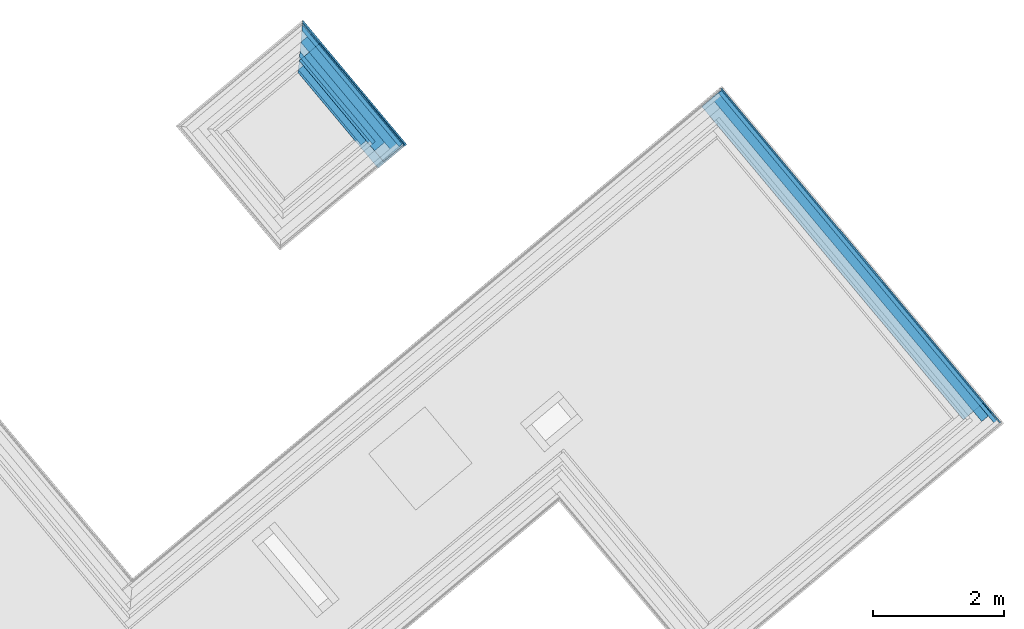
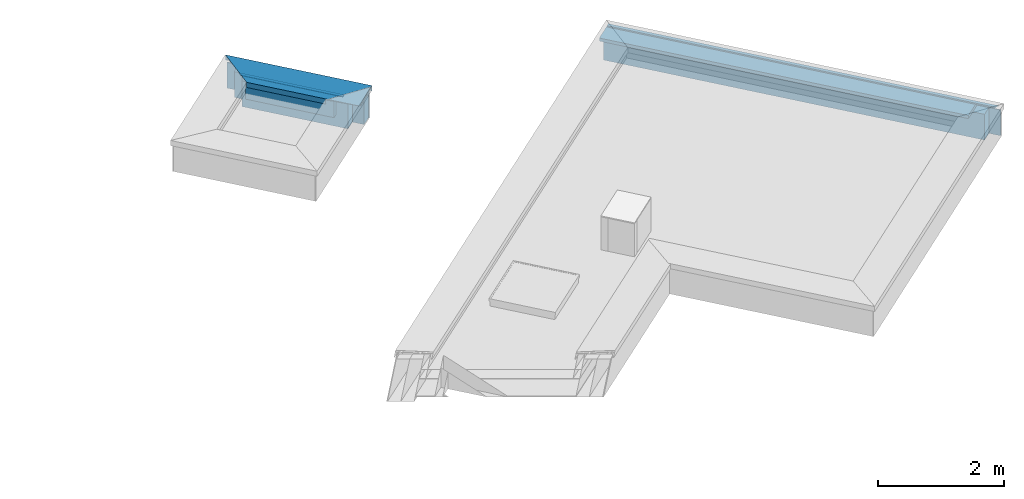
# One storey, part 11 of 13: 13 building element parts, 2 elements without a shape of their own.
"""IFC4 building model written with IfcOpenShell, lengths in metres."""

from ifc_helpers import new_model, entity, si_unit, converted_unit, derived_unit, direction, frame, origin_with_axes, place, context, subcontext, project, spatial, polygons, material, type_object, element, aggregate, save


model = new_model("IFC4")

# Units and contexts
model_context = context("Model", 3, precision=1e-05, world=origin_with_axes(), true_north=direction((0.0, 1.0)))
body_context = subcontext(model_context, "Body", "Model", "MODEL_VIEW")
ifc_project = project(units=[si_unit("LENGTHUNIT", "METRE"), si_unit("AREAUNIT", "SQUARE_METRE"), si_unit("VOLUMEUNIT", "CUBIC_METRE"), converted_unit("PLANEANGLEUNIT", "DEGREE", entity("IfcPlaneAngleMeasure", 0.0174532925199), si_unit("PLANEANGLEUNIT", "RADIAN"), dimensions=[0, 0, 0, 0, 0, 0, 0]), converted_unit("TIMEUNIT", "Year", entity("IfcTimeMeasure", 31556926.0), si_unit("TIMEUNIT", "SECOND"), dimensions=[0, 0, 1, 0, 0, 0, 0]), si_unit("MASSUNIT", "GRAM", prefix="KILO"), si_unit("THERMODYNAMICTEMPERATUREUNIT", "DEGREE_CELSIUS"), si_unit("LUMINOUSINTENSITYUNIT", "LUMEN"), si_unit("ENERGYUNIT", "JOULE", prefix="MEGA"), derived_unit("THERMALCONDUCTANCEUNIT", [(si_unit("POWERUNIT", "WATT"), 1), (si_unit("LENGTHUNIT", "METRE"), -1), (si_unit("THERMODYNAMICTEMPERATUREUNIT", "KELVIN"), -1)]), derived_unit("SPECIFICHEATCAPACITYUNIT", [(si_unit("ENERGYUNIT", "JOULE"), 1), (si_unit("MASSUNIT", "GRAM", prefix="KILO"), -1), (si_unit("THERMODYNAMICTEMPERATUREUNIT", "KELVIN"), -1)]), derived_unit("MASSDENSITYUNIT", [(si_unit("MASSUNIT", "GRAM", prefix="KILO"), 1), (si_unit("VOLUMEUNIT", "CUBIC_METRE"), -1)])], contexts=[model_context])

# Site, building, storey
site_placement = place(None, frame((-0.00153261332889, -0.00661245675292, 0.0), z_axis=(0.0, 0.0, 1.0), x_axis=(1.0, 0.0, 0.0)))
site = spatial("IfcSite", under=ifc_project, at=site_placement, Name="Gelände", CompositionType="ELEMENT")
building_placement = place(site_placement, origin_with_axes())
building = spatial("IfcBuilding", under=site, at=building_placement, Name="Gebäude", CompositionType="ELEMENT")
storey_placement = place(building_placement, frame((0.0, 0.0, 11.84), z_axis=(0.0, 0.0, 1.0), x_axis=(1.0, 0.0, 0.0)))
storey = spatial("IfcBuildingStorey", under=building, at=storey_placement, Name="DA", CompositionType="ELEMENT", Elevation=11.84)

# Wall, building element parts
wall_type_1 = type_object("IfcWallType", Name="Bauteil - Attika 574 x 610", PredefinedType="NOTDEFINED")
wall_1_placement = place(storey_placement, frame((1.62788776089, 27.3539711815, 0.96), z_axis=(0.0, 0.0, 1.0), x_axis=(0.641209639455, -0.767365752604, 0.0)))
wall_1 = element("IfcWall", 1, at=wall_1_placement, inside=storey, type_object=wall_type_1, Name="Wand-002", PredefinedType="NOTDEFINED")
ifc_material_1 = material(Name="Zementputz")
building_element_part_1_placement = place(wall_1_placement, origin_with_axes())
building_element_part_1 = element("IfcBuildingElementPart", 2, at=building_element_part_1_placement, material=ifc_material_1, Name="Zementputz", PredefinedType="NOTDEFINED", context=body_context, shape_type="Tessellation", body=[
    polygons([(-0.199999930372, 0.214999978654, 0.498822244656), (-0.199999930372, 0.214999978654, 0.5), (2.21614370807, 0.214999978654, 0.50000001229), (2.21614370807, 0.214999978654, 0.0), (-0.199999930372, 0.214999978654, 0.0), (-0.199999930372, 0.214999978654, 0.235000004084), (-0.199999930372, 0.214999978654, 0.488695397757), (-0.199999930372, 0.214999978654, 0.491006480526), (-0.199999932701, 0.199999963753, 0.5), (-0.199999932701, 0.199999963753, 0.498822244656), (2.21614373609, 0.199999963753, 0.50000001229), (2.21614373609, 0.199999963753, 0.0), (-0.199999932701, 0.199999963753, 0.0), (-0.199999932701, 0.199999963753, 0.235000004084), (-0.199999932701, 0.199999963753, 0.488695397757), (-0.199999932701, 0.199999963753, 0.491006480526)], [[[1, 2, 3, 4, 5, 6, 7, 8]], [[9, 2, 1, 10]], [[2, 9, 11, 3]], [[12, 4, 3, 11]], [[13, 5, 4, 12]], [[14, 6, 5, 13]], [[15, 7, 6, 14]], [[16, 8, 7, 15]], [[10, 1, 8, 16]], [[9, 10, 16, 15, 14, 13, 12, 11]]], closed=True),
])
ifc_material_2 = material(Name="Vollholz")
building_element_part_2_placement = place(wall_1_placement, origin_with_axes())
building_element_part_2 = element("IfcBuildingElementPart", 3, at=building_element_part_2_placement, material=ifc_material_2, Name="Vollholz", PredefinedType="NOTDEFINED", context=body_context, shape_type="Tessellation", body=[
    polygons([(2.1911831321, 0.130124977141, 0.575979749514), (2.19119439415, 0.130124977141, 0.573880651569), (2.19119428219, 0.190050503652, 0.573880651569), (2.19118302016, 0.190039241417, 0.575979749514), (-0.130124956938, 0.130124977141, 0.567947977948), (-0.130124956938, 0.130124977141, 0.560000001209), (2.19126886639, 0.130124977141, 0.560000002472), (2.19122622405, 0.130124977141, 0.567947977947), (2.1911400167, 0.130124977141, 0.584015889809), (-0.130124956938, 0.130124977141, 0.584015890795), (-0.130124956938, 0.130124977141, 0.575979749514), (-0.130124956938, 0.130124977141, 0.573880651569), (2.19122611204, 0.19008233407, 0.567947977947), (-0.130124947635, 0.190039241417, 0.575979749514), (-0.130124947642, 0.189996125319, 0.584015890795), (-0.189984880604, 0.189984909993, 0.586106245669), (2.19112868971, 0.189984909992, 0.586106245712), (2.19113990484, 0.189996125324, 0.584015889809), (2.1912687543, 0.190124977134, 0.560000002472), (-0.130124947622, 0.190124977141, 0.560000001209), (-0.130124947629, 0.19008233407, 0.567947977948), (-0.130124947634, 0.190050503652, 0.573880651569)], [[[1, 2, 3, 4]], [[5, 6, 7, 8, 2, 1, 9, 10, 11, 12]], [[2, 8, 13, 3]], [[14, 15, 16, 17, 18, 4, 3, 13, 19, 20, 21, 22]], [[1, 4, 18, 9]], [[6, 5, 21, 20]], [[7, 6, 20, 19]], [[8, 7, 19, 13]], [[16, 10, 9, 17]], [[11, 10, 15, 14]], [[12, 11, 14, 22]], [[5, 12, 22, 21]], [[15, 10, 16]], [[17, 9, 18]]], closed=True),
])
ifc_material_3 = material(Name="EPS 1")
building_element_part_3_placement = place(wall_1_placement, origin_with_axes())
building_element_part_3 = element("IfcBuildingElementPart", 4, at=building_element_part_3_placement, material=ifc_material_3, Name="EPS 1", PredefinedType="NOTDEFINED", context=body_context, shape_type="Tessellation", body=[
    polygons([(2.20114410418, -2.16659046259e-09, 0.5), (2.20114373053, 0.19999996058, 0.5), (3.3218292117e-08, 0.19999996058, 0.5), (2.16658690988e-09, -2.16658690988e-09, 0.5), (2.20114373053, 0.19999996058, 0.498822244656), (2.20114410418, -2.16659046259e-09, 0.498822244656), (2.20114373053, 0.19999996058, 0.491006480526), (2.20114373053, 0.19999996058, 0.488695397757), (2.20114373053, 0.19999996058, 0.235000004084), (2.20114373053, 0.19999996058, 0.0), (3.3218292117e-08, 0.19999996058, 0.0), (3.32182885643e-08, 0.19999996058, 0.235000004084), (3.32182885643e-08, 0.19999996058, 0.488695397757), (3.32182885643e-08, 0.19999996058, 0.491006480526), (3.32182885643e-08, 0.19999996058, 0.498822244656), (2.16658690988e-09, -2.16659046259e-09, 0.498822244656), (2.16658690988e-09, -2.16659046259e-09, 0.491006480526), (2.16658690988e-09, -2.16659046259e-09, 0.488695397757), (2.16658690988e-09, -2.16659046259e-09, 0.235000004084), (2.16658690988e-09, -2.16658690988e-09, 0.0), (2.20114410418, -2.16659046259e-09, 0.0), (2.20114410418, -2.16659046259e-09, 0.235000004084), (2.20114410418, -2.16659046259e-09, 0.488695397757), (2.20114410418, -2.16659046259e-09, 0.491006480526)], [[[1, 2, 3, 4]], [[5, 2, 1, 6]], [[2, 5, 7, 8, 9, 10, 11, 12, 13, 14, 15, 3]], [[4, 3, 15, 16]], [[6, 1, 4, 16, 17, 18, 19, 20, 21, 22, 23, 24]], [[5, 6, 24, 7]], [[7, 24, 23, 8]], [[8, 23, 22, 9]], [[9, 22, 21, 10]], [[10, 21, 20, 11]], [[19, 12, 11, 20]], [[18, 13, 12, 19]], [[17, 14, 13, 18]], [[16, 15, 14, 17]]], closed=True),
])
ifc_material_4 = material(Name="Brettschichtholz")
building_element_part_4_placement = place(wall_1_placement, origin_with_axes())
building_element_part_4 = element("IfcBuildingElementPart", 5, at=building_element_part_4_placement, material=ifc_material_4, Name="Brettschichtholz", PredefinedType="NOTDEFINED", context=body_context, shape_type="Tessellation", body=[
    polygons([(2.21614375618, 0.190124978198, 0.560000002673), (2.21614370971, 0.214999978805, 0.560000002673), (0.200000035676, 0.214999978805, 0.560000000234), (0.200000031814, 0.190124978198, 0.560000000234), (2.21614370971, 0.214999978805, 0.519224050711), (2.21614386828, 0.130124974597, 0.560000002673), (2.21614429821, -0.0999999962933, 0.560000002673), (2.2161444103, -0.159999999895, 0.560000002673), (2.21614448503, -0.200000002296, 0.560000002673), (2.21614448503, -0.200000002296, 0.519224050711), (2.21614370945, 0.214999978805, 0.51136132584), (2.21614370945, 0.214999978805, 0.509050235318), (2.21614370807, 0.214999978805, 0.50000001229), (0.200000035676, 0.214999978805, 0.499999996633), (0.200000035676, 0.214999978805, 0.509050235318), (0.200000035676, 0.214999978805, 0.51136132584), (0.200000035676, 0.214999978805, 0.519224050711), (0.199999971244, -0.200000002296, 0.519224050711), (0.199999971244, -0.200000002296, 0.560000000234), (0.199999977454, -0.159999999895, 0.560000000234), (0.19999998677, -0.0999999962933, 0.560000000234), (0.200000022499, 0.130124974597, 0.560000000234), (0.199999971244, -0.200000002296, 0.51136132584), (0.199999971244, -0.200000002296, 0.509050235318), (0.199999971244, -0.200000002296, 0.499999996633), (2.2161444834, -0.200000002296, 0.50000001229), (2.21614448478, -0.200000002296, 0.509050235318), (2.21614448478, -0.200000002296, 0.51136132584)], [[[1, 2, 3, 4]], [[5, 2, 1, 6, 7, 8, 9, 10]], [[2, 5, 11, 12, 13, 14, 15, 16, 17, 3]], [[4, 3, 17, 18, 19, 20, 21, 22]], [[6, 1, 4, 22]], [[7, 6, 22, 21]], [[8, 7, 21, 20]], [[9, 8, 20, 19]], [[10, 9, 19, 18, 23, 24, 25, 26, 27, 28]], [[5, 10, 28, 11]], [[11, 28, 27, 12]], [[12, 27, 26, 13]], [[25, 14, 13, 26]], [[24, 15, 14, 25]], [[23, 16, 15, 24]], [[18, 17, 16, 23]]], closed=True),
])
ifc_material_5 = material(Name="Stahlbeton Wand Garage")
building_element_part_5_placement = place(wall_1_placement, origin_with_axes())
building_element_part_5 = element("IfcBuildingElementPart", 6, at=building_element_part_5_placement, material=ifc_material_5, Name="Stahlbeton Wand Garage", PredefinedType="NOTDEFINED", context=body_context, shape_type="Tessellation", body=[
    polygons([(2.00114451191, -0.2, 0.5), (2.00114413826, 0.0, 0.5), (0.2, 0.0, 0.5), (0.199999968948, -0.2, 0.5), (2.00114413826, 0.0, 0.498822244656), (2.00114451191, -0.200000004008, 0.498822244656), (2.00114413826, 0.0, 0.491006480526), (2.00114413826, 0.0, 0.488695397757), (2.00114413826, 0.0, 0.235000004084), (2.00114413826, 0.0, 0.0), (0.2, 0.0, 0.0), (0.200000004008, 0.0, 0.235000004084), (0.200000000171, 0.0, 0.488695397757), (0.200000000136, 0.0, 0.491006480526), (0.200000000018, 0.0, 0.498822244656), (0.199999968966, -0.200000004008, 0.498822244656), (0.199999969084, -0.200000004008, 0.491006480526), (0.199999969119, -0.200000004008, 0.488695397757), (0.199999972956, -0.200000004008, 0.235000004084), (2.00114451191, -0.200000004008, 0.235000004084), (2.00114451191, -0.200000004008, 0.488695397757), (2.00114451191, -0.200000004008, 0.491006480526), (2.00114451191, -0.2, 0.0), (0.199999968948, -0.2, 0.0)], [[[1, 2, 3, 4]], [[5, 2, 1, 6]], [[2, 5, 7, 8, 9, 10, 11, 12, 13, 14, 15, 3]], [[4, 3, 15, 16]], [[6, 1, 4, 16, 17, 18, 19, 20, 21, 22]], [[5, 6, 22, 7]], [[7, 22, 21, 8]], [[8, 21, 20, 9]], [[9, 20, 23, 10]], [[10, 23, 24, 11]], [[19, 12, 11, 24]], [[18, 13, 12, 19]], [[17, 14, 13, 18]], [[16, 15, 14, 17]], [[23, 20, 19, 24]]], closed=True),
])
building_element_part_6_placement = place(wall_1_placement, origin_with_axes())
building_element_part_6 = element("IfcBuildingElementPart", 7, at=building_element_part_6_placement, material=ifc_material_2, Name="Vollholz", PredefinedType="NOTDEFINED", context=body_context, shape_type="Tessellation", body=[
    polygons([(1.90114443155, -0.160110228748, 0.573880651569), (1.90114431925, -0.1, 0.575979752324), (0.0999999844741, -0.1, 0.575979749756), (0.160110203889, -0.160110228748, 0.573880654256), (1.90114431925, -0.1, 0.573880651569), (1.90114431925, -0.1, 0.567947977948), (1.90114431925, -0.1, 0.560000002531), (0.159999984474, -0.1, 0.560000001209), (0.160063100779, -0.1, 0.567947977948), (0.160110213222, -0.1, 0.573880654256), (1.90114443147, -0.160063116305, 0.567947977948), (0.160063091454, -0.160063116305, 0.567947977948), (0.159999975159, -0.16, 0.560000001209), (1.90114443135, -0.16, 0.560000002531)], [[[1, 2, 3, 4]], [[5, 2, 1]], [[2, 5, 6, 7, 8, 9, 10, 3]], [[3, 10, 4]], [[11, 1, 4, 12, 13, 14]], [[5, 1, 11, 6]], [[6, 11, 14, 7]], [[7, 14, 13, 8]], [[12, 9, 8, 13]], [[4, 10, 9, 12]]], closed=True),
])
building_element_part_7_placement = place(wall_1_placement, origin_with_axes())
building_element_part_7 = element("IfcBuildingElementPart", 8, at=building_element_part_7_placement, material=ifc_material_3, Name="EPS 1", PredefinedType="NOTDEFINED", context=body_context, shape_type="Tessellation", body=[
    polygons([(1.80114469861, -0.30000000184, 0.560000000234), (1.80114451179, -0.200000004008, 0.560000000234), (0.299999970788, -0.200000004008, 0.560000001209), (0.299999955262, -0.30000000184, 0.560000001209), (1.80114451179, -0.200000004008, 0.519224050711), (1.80114469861, -0.30000000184, 0.519224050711), (1.80114451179, -0.200000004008, 0.51136132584), (1.80114451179, -0.200000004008, 0.509050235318), (1.80114451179, -0.200000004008, 0.499999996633), (1.80114451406, -0.200000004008, 0.498822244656), (1.80114451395, -0.200000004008, 0.491006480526), (1.80114451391, -0.200000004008, 0.488695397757), (1.80114451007, -0.200000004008, 0.235000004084), (0.299999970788, -0.200000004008, 0.235000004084), (0.299999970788, -0.200000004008, 0.488695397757), (0.299999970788, -0.200000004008, 0.491006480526), (0.299999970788, -0.200000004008, 0.498822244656), (0.299999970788, -0.200000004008, 0.499999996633), (0.299999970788, -0.200000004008, 0.509050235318), (0.299999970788, -0.200000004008, 0.51136132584), (0.299999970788, -0.200000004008, 0.519224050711), (0.299999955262, -0.30000000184, 0.519224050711), (0.299999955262, -0.30000000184, 0.51136132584), (0.299999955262, -0.30000000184, 0.509050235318), (0.299999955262, -0.30000000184, 0.499999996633), (0.299999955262, -0.30000000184, 0.498822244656), (0.299999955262, -0.30000000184, 0.491006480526), (0.299999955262, -0.30000000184, 0.488695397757), (0.299999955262, -0.30000000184, 0.235000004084), (1.8011446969, -0.30000000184, 0.235000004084), (1.80114470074, -0.30000000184, 0.488695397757), (1.80114470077, -0.30000000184, 0.491006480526), (1.80114470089, -0.30000000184, 0.498822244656), (1.80114469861, -0.30000000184, 0.499999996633), (1.80114469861, -0.30000000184, 0.509050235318), (1.80114469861, -0.30000000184, 0.51136132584)], [[[1, 2, 3, 4]], [[5, 2, 1, 6]], [[2, 5, 7, 8, 9, 10, 11, 12, 13, 14, 15, 16, 17, 18, 19, 20, 21, 3]], [[4, 3, 21, 22]], [[6, 1, 4, 22, 23, 24, 25, 26, 27, 28, 29, 30, 31, 32, 33, 34, 35, 36]], [[5, 6, 36, 7]], [[7, 36, 35, 8]], [[8, 35, 34, 9]], [[9, 34, 33, 10]], [[10, 33, 32, 11]], [[11, 32, 31, 12]], [[12, 31, 30, 13]], [[13, 30, 29, 14]], [[28, 15, 14, 29]], [[27, 16, 15, 28]], [[26, 17, 16, 27]], [[25, 18, 17, 26]], [[24, 19, 18, 25]], [[23, 20, 19, 24]], [[22, 21, 20, 23]]], closed=True),
])
ifc_material_6 = material(Name="Holzwerkstoff")
building_element_part_8_placement = place(wall_1_placement, origin_with_axes())
building_element_part_8 = element("IfcBuildingElementPart", 9, at=building_element_part_8_placement, material=ifc_material_6, Name="Holzwerkstoff", PredefinedType="NOTDEFINED", context=body_context, shape_type="Tessellation", body=[
    polygons([(0.330698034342, -0.330698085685, 0.587938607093), (-0.239276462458, 0.239276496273, 0.608570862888), (0.330698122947, 0.2399969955, 0.587938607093), (2.24114178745, -0.33069804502, 0.587937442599), (2.24042018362, 0.239276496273, 0.608570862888), (2.24114072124, 0.239997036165, 0.587937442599), (2.24114367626, 0.239999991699, 0.587852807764), (0.330695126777, 0.239999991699, 0.587852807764), (0.330634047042, -0.330634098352, 0.586106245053), (0.330634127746, 0.189984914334, 0.586106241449), (0.330561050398, -0.330561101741, 0.584015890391), (0.330280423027, -0.330280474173, 0.575979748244), (0.330207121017, -0.330207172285, 0.573880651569), (0.329999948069, -0.329999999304, 0.567947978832), (1.67114478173, -0.329999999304, 0.567947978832), (1.84103452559, -0.330207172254, 0.57388065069), (1.90114474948, -0.330280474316, 0.575979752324), (2.13126972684, -0.330561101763, 0.584015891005), (2.19112966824, -0.330634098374, 0.586106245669), (2.24114474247, -0.330695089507, 0.587852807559), (2.19112857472, 0.189984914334, 0.586106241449), (0.330561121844, 0.130124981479, 0.584015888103), (0.330280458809, -0.100000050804, 0.575979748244), (0.330207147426, -0.160110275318, 0.573880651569), (1.84103420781, -0.160110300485, 0.57388065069), (1.90114431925, -0.100000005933, 0.575979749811), (2.13126886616, 0.130124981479, 0.584015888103)], [[[1, 2, 3]], [[2, 1, 4, 5]], [[2, 5, 6, 7, 8, 3]], [[9, 1, 3, 8, 10]], [[11, 12, 13, 14, 15, 16, 17, 18, 19, 20, 4, 1, 9]], [[4, 6, 5]], [[4, 20, 7, 6]], [[10, 8, 7, 21]], [[11, 9, 10, 22]], [[12, 11, 22, 23]], [[24, 13, 12, 23]], [[24, 14, 13]], [[14, 24, 25, 15]], [[15, 25, 16]], [[17, 16, 25, 26]], [[17, 26, 27, 18]], [[19, 18, 27, 21]], [[20, 19, 21, 7]], [[22, 10, 21, 27]], [[23, 22, 27, 26]], [[24, 23, 26, 25]]], closed=True),
])
ifc_material_7 = material(Name="Stahl")
building_element_part_9_placement = place(wall_1_placement, origin_with_axes())
building_element_part_9 = element("IfcBuildingElementPart", 10, at=building_element_part_9_placement, material=ifc_material_7, Name="Stahl", PredefinedType="NOTDEFINED", context=body_context, shape_type="Tessellation", body=[
    polygons([(0.332051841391, -0.332051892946, 0.491006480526), (0.332051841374, -0.332051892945, 0.489652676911), (1.67100741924, -0.332051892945, 0.489652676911), (1.67236122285, -0.332051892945, 0.491006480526), (1.67044667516, -0.332051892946, 0.491006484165), (1.67044667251, -0.332051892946, 0.498822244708), (1.67044667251, -0.332051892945, 0.499999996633), (1.67044667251, -0.332051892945, 0.509050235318), (1.67044667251, -0.332051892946, 0.51136132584), (1.67044667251, -0.332051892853, 0.519224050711), (1.67044667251, -0.332051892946, 0.560000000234), (1.67044667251, -0.332051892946, 0.56794797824), (1.67044667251, -0.332051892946, 0.57388065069), (1.67044667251, -0.332051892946, 0.575979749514), (1.67044667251, -0.332051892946, 0.584015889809), (1.67044667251, -0.332051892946, 0.586106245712), (1.6704466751, -0.332051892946, 0.587938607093), (0.332051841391, -0.332051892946, 0.589243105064), (0.332051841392, -0.332051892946, 0.587938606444), (0.332051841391, -0.332051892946, 0.586106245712), (0.332051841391, -0.332051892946, 0.584015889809), (0.332051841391, -0.332051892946, 0.575979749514), (0.332051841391, -0.332051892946, 0.573880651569), (0.332051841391, -0.332051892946, 0.567947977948), (0.332051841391, -0.332051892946, 0.560000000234), (0.332051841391, -0.332051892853, 0.519224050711), (0.332051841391, -0.332051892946, 0.51136132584), (0.332051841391, -0.332051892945, 0.509050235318), (0.332051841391, -0.332051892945, 0.499999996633), (0.332051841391, -0.332051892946, 0.498822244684), (0.332051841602, -0.330698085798, 0.491006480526), (0.332051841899, -0.32878353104, 0.491006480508), (0.332051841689, -0.33013733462, 0.489652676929), (0.331094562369, -0.331094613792, 0.488695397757), (1.67005013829, -0.331094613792, 0.488695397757), (1.67236121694, -0.328783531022, 0.491006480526), (1.67236122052, -0.330698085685, 0.491006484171), (1.67044667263, -0.330698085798, 0.491006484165), (1.67044666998, -0.330698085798, 0.498822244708), (1.67044666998, -0.330698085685, 0.499999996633), (1.67044666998, -0.330698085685, 0.509050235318), (1.67044666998, -0.330698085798, 0.51136132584), (1.67044666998, -0.330698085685, 0.519224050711), (1.67044666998, -0.330698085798, 0.560000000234), (1.67044666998, -0.330698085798, 0.56794797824), (1.67044666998, -0.330698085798, 0.57388065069), (1.67044666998, -0.330698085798, 0.575979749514), (1.67044666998, -0.330698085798, 0.584015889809), (1.67044666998, -0.330698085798, 0.586106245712), (1.67044671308, -0.330698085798, 0.587937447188), (1.67047086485, -0.332051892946, 0.587938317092), (0.332051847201, -0.294630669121, 0.589243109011), (0.332051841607, -0.330666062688, 0.587938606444), (0.332051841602, -0.330698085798, 0.587937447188), (0.332051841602, -0.330698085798, 0.586106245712), (0.332051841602, -0.330698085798, 0.584015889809), (0.332051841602, -0.330698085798, 0.575979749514), (0.332051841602, -0.330698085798, 0.573880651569), (0.332051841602, -0.330698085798, 0.567947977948), (0.332051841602, -0.330698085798, 0.560000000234), (0.332051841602, -0.330698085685, 0.519224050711), (0.332051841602, -0.330698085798, 0.51136132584), (0.332051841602, -0.330698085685, 0.509050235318), (0.332051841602, -0.330698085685, 0.499999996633), (0.332051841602, -0.330698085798, 0.498822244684), (0.330698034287, -0.330698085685, 0.491006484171), (0.330698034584, -0.328783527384, 0.491006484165), (0.323792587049, -0.321878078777, 0.497911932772), (1.67926665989, -0.321878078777, 0.497911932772), (1.67926666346, -0.323792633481, 0.497911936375), (1.67826241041, -0.32288233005, 0.498822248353), (0.322882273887, -0.32288233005, 0.498822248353), (2.2404201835, 0.239276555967, 0.608570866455), (2.24042025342, 0.201849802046, 0.608570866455), (1.70651414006, -0.332051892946, 0.589243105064), (-0.201849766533, 0.201849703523, 0.608570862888), (-0.201849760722, 0.239276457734, 0.608570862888), (2.24129656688, 0.202730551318, 0.608602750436), (2.24129649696, 0.240152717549, 0.608602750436), (2.24264401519, 0.202730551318, 0.608602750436), (2.24264394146, 0.241500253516, 0.610006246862), (-0.24150021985, 0.241500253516, 0.610006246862), (-0.202730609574, 0.202730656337, 0.608602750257), (-0.202730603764, 0.240152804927, 0.608602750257), (2.24264394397, 0.240152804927, 0.608602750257), (2.24264394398, 0.240146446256, 0.51136132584), (2.24264394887, 0.238231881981, 0.511361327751), (2.24264394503, 0.239585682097, 0.510007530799), (2.24264394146, 0.241500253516, 0.510007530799), (-0.240152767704, 0.241500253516, 0.608602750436), (-0.202730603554, 0.241500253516, 0.608602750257), (-0.239585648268, 0.241500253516, 0.510007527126), (-0.2382318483, 0.241500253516, 0.511361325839), (-0.240146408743, 0.241500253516, 0.51136132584), (-0.240146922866, 0.241500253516, 0.519224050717), (-0.240149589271, 0.241500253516, 0.560000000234), (-0.240150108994, 0.241500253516, 0.567947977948), (-0.240150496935, 0.241500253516, 0.573880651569), (-0.240150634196, 0.241500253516, 0.575979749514), (-0.240151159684, 0.241500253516, 0.584015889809), (-0.240151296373, 0.241500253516, 0.586106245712), (-0.240151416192, 0.241500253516, 0.587938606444), (-0.240152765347, 0.241500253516, 0.608570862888), (-0.240152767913, 0.240152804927, 0.608602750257), (-0.240152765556, 0.240152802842, 0.608570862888), (-0.240151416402, 0.240151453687, 0.587938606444), (-0.240151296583, 0.240151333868, 0.586106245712), (-0.240151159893, 0.240151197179, 0.584015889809), (-0.240150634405, 0.240150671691, 0.575979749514), (-0.240150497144, 0.24015053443, 0.573880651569), (-0.240150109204, 0.240150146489, 0.567947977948), (-0.240149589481, 0.240149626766, 0.560000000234), (-0.240146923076, 0.240146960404, 0.519224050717), (-0.240146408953, 0.240146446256, 0.51136132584), (-0.23823184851, 0.240146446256, 0.511361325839), (2.24129013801, 0.240146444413, 0.511361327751), (2.24129014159, 0.238231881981, 0.511361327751), (-0.231373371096, 0.231373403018, 0.518219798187), (-0.238231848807, 0.238231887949, 0.51136132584), (-0.240542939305, 0.240542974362, 0.509050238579), (2.24168666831, 0.240542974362, 0.509050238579), (2.23443167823, 0.231373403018, 0.518219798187), (-0.231373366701, 0.233287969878, 0.518219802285), (-0.232283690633, 0.232283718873, 0.51922405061), (2.23342742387, 0.232283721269, 0.519224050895)], [[[1, 2, 3, 4, 5, 6, 7, 8, 9, 10, 11, 12, 13, 14, 15, 16, 17, 18, 19, 20, 21, 22, 23, 24, 25, 26, 27, 28, 29, 30]], [[2, 1, 31, 32, 33]], [[2, 34, 35, 3]], [[3, 35, 36, 37, 4]], [[38, 5, 4, 37]], [[6, 5, 38, 39]], [[7, 6, 39, 40]], [[7, 40, 41, 8]], [[9, 8, 41, 42]], [[10, 9, 42, 43]], [[11, 10, 43, 44]], [[12, 11, 44, 45]], [[13, 12, 45, 46]], [[13, 46, 47, 14]], [[15, 14, 47, 48]], [[16, 15, 48, 49]], [[17, 16, 49, 50]], [[18, 17, 51]], [[19, 18, 52, 53, 54]], [[20, 19, 54, 55]], [[21, 20, 55, 56]], [[22, 21, 56, 57]], [[58, 23, 22, 57]], [[24, 23, 58, 59]], [[25, 24, 59, 60]], [[26, 25, 60, 61]], [[27, 26, 61, 62]], [[28, 27, 62, 63]], [[29, 28, 63, 64]], [[30, 29, 64, 65]], [[1, 30, 65, 31]], [[31, 66, 67, 32]], [[34, 33, 32, 67, 68, 69, 36, 35]], [[34, 2, 33]], [[37, 36, 69, 70]], [[66, 31, 38, 37, 70, 71, 72]], [[31, 65, 64, 63, 62, 61, 60, 59, 58, 57, 56, 55, 54, 50, 49, 48, 47, 46, 45, 44, 43, 42, 41, 40, 39, 38]], [[51, 17, 50, 73, 74, 75]], [[75, 18, 51]], [[52, 18, 76, 77]], [[54, 53, 52, 77, 73, 50]], [[67, 66, 72, 68]], [[68, 72, 71, 69]], [[71, 70, 69]], [[78, 74, 73, 79]], [[76, 18, 75, 74, 78, 80, 81, 82, 83]], [[76, 83, 84, 77]], [[77, 84, 79, 73]], [[80, 78, 79, 85]], [[86, 87, 88, 89, 81, 80, 85]], [[90, 91, 82, 81, 89, 92, 93, 94, 95, 96, 97, 98, 99, 100, 101, 102, 103]], [[83, 82, 91, 84]], [[84, 104, 105, 106, 107, 108, 109, 110, 111, 112, 113, 114, 115, 116, 86, 85, 79]], [[117, 87, 86, 116]], [[118, 119, 120, 121, 88, 87, 117, 122]], [[88, 121, 89]], [[84, 91, 90, 104]], [[120, 92, 89, 121]], [[120, 119, 115, 93, 92]], [[114, 94, 93, 115]], [[94, 114, 113, 95]], [[113, 112, 96, 95]], [[112, 111, 97, 96]], [[111, 110, 98, 97]], [[110, 109, 99, 98]], [[109, 108, 100, 99]], [[108, 107, 101, 100]], [[107, 106, 102, 101]], [[106, 105, 103, 102]], [[105, 104, 90, 103]], [[123, 124, 125, 116, 115]], [[122, 117, 116, 125]], [[118, 123, 115, 119]], [[124, 118, 122, 125]], [[118, 124, 123]]], closed=True),
])
aggregate(wall_1, [building_element_part_1, building_element_part_2, building_element_part_3, building_element_part_4, building_element_part_5, building_element_part_6, building_element_part_7, building_element_part_8, building_element_part_9])

wall_type_2 = type_object("IfcWallType", Name="Individuelles Profil 574 x 610", PredefinedType="NOTDEFINED")
wall_2_placement = place(storey_placement, frame((8.04940660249, 26.3441297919, 0.0), z_axis=(0.0, 0.0, 1.0), x_axis=(0.641209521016, -0.767365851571, 0.0)))
wall_2 = element("IfcWall", 11, at=wall_2_placement, inside=storey, type_object=wall_type_2, Name="Wand-004", PredefinedType="NOTDEFINED")
building_element_part_10_placement = place(wall_2_placement, origin_with_axes())
building_element_part_10 = element("IfcBuildingElementPart", 12, at=building_element_part_10_placement, material=ifc_material_1, Name="Zementputz", PredefinedType="NOTDEFINED", context=body_context, shape_type="Tessellation", body=[
    polygons([(6.45742309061, 0.199999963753, 0.5), (6.45741332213, 0.214999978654, 0.5), (-0.214999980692, 0.214999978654, 0.500000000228), (-0.214999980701, 0.199999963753, 0.500000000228), (6.45741332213, 0.214999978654, 0.498822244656), (6.45742309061, 0.199999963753, 0.498822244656), (6.45741332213, 0.214999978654, 0.491006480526), (6.45741332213, 0.214999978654, 0.488695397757), (6.45741332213, 0.214999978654, 0.235000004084), (6.45741332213, 0.214999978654, 0.0), (-0.214999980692, 0.214999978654, 0.0), (-0.214999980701, 0.199999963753, 0.0), (6.45742309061, 0.199999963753, 0.0), (6.45742309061, 0.199999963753, 0.235000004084), (6.45742309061, 0.199999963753, 0.488695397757), (6.45742309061, 0.199999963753, 0.491006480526)], [[[1, 2, 3, 4]], [[5, 2, 1, 6]], [[2, 5, 7, 8, 9, 10, 11, 3]], [[12, 4, 3, 11]], [[6, 1, 4, 12, 13, 14, 15, 16]], [[5, 6, 16, 7]], [[7, 16, 15, 8]], [[8, 15, 14, 9]], [[9, 14, 13, 10]], [[10, 13, 12, 11]]], closed=True),
])
building_element_part_11_placement = place(wall_2_placement, origin_with_axes())
building_element_part_11 = element("IfcBuildingElementPart", 13, at=building_element_part_11_placement, material=ifc_material_2, Name="Vollholz", PredefinedType="NOTDEFINED", context=body_context, shape_type="Tessellation", body=[
    polygons([(-0.190082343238, 0.130124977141, 0.567947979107), (-0.190050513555, 0.130124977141, 0.573880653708), (-0.190050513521, 0.19005050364, 0.573880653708), (-0.190082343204, 0.190082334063, 0.567947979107), (-0.190039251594, 0.130124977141, 0.575979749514), (-0.190124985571, 0.130124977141, 0.560000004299), (6.38759359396, 0.130124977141, 0.560000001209), (6.38759359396, 0.130124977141, 0.567947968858), (6.38759359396, 0.130124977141, 0.573880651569), (6.38759359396, 0.130124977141, 0.575979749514), (6.38759359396, 0.130124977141, 0.584015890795), (-0.189996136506, 0.130124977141, 0.584015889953), (-0.19003925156, 0.190039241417, 0.575979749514), (6.38755457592, 0.190039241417, 0.575979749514), (6.38755456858, 0.190050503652, 0.573880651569), (6.38755454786, 0.190082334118, 0.567947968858), (6.38755452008, 0.190124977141, 0.560000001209), (-0.190124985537, 0.190124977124, 0.560000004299), (-0.189996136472, 0.189996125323, 0.584015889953), (-0.189984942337, 0.189984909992, 0.586106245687), (6.44741455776, 0.189984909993, 0.586106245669), (6.387554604, 0.189996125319, 0.584015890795)], [[[1, 2, 3, 4]], [[5, 2, 1, 6, 7, 8, 9, 10, 11, 12]], [[2, 5, 13, 3]], [[14, 15, 16, 17, 18, 4, 3, 13, 19, 20, 21, 22]], [[6, 1, 4, 18]], [[7, 6, 18, 17]], [[8, 7, 17, 16]], [[9, 8, 16, 15]], [[10, 9, 15, 14]], [[11, 10, 14, 22]], [[20, 12, 11, 21]], [[5, 12, 19, 13]], [[12, 20, 19]], [[11, 22, 21]]], closed=True),
])
building_element_part_12_placement = place(wall_2_placement, origin_with_axes())
building_element_part_12 = element("IfcBuildingElementPart", 14, at=building_element_part_12_placement, material=ifc_material_3, Name="EPS 1", PredefinedType="NOTDEFINED", context=body_context, shape_type="Tessellation", body=[
    polygons([(-0.199999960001, 0.19999996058, 0.498822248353), (-0.199999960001, 0.19999996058, 0.5), (6.25742308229, 0.19999996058, 0.5), (6.25742308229, 0.19999996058, 0.498822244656), (6.25742308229, 0.19999996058, 0.491006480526), (6.25742308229, 0.19999996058, 0.488695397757), (6.25742308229, 0.19999996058, 0.235000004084), (6.25742308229, 0.19999996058, 0.0), (-0.199999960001, 0.19999996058, 0.0), (-0.199999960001, 0.19999996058, 0.235000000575), (-0.199999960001, 0.19999996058, 0.488695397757), (-0.199999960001, 0.19999996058, 0.491006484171), (-0.199999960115, -2.16659401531e-09, 0.5), (-0.199999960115, -2.16659401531e-09, 0.498822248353), (6.25755332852, -2.16659401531e-09, 0.5), (6.25755332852, -2.16659046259e-09, 0.498822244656), (6.25755332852, -2.16659046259e-09, 0.491006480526), (6.25755332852, -2.16659046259e-09, 0.488695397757), (6.25755332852, -2.16659046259e-09, 0.235000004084), (6.25755332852, -2.16658690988e-09, 0.0), (-0.199999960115, -2.16659046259e-09, 0.0), (-0.199999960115, -2.16659401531e-09, 0.235000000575), (-0.199999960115, -2.16659401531e-09, 0.488695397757), (-0.199999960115, -2.16659401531e-09, 0.491006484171)], [[[1, 2, 3, 4, 5, 6, 7, 8, 9, 10, 11, 12]], [[13, 2, 1, 14]], [[2, 13, 15, 3]], [[4, 3, 15, 16]], [[4, 16, 17, 5]], [[5, 17, 18, 6]], [[6, 18, 19, 7]], [[7, 19, 20, 8]], [[21, 9, 8, 20]], [[22, 10, 9, 21]], [[23, 11, 10, 22]], [[24, 12, 11, 23]], [[14, 1, 12, 24]], [[13, 14, 24, 23, 22, 21, 20, 19, 18, 17, 16, 15]]], closed=True),
])
building_element_part_13_placement = place(wall_2_placement, origin_with_axes())
building_element_part_13 = element("IfcBuildingElementPart", 15, at=building_element_part_13_placement, material=ifc_material_4, Name="Brettschichtholz", PredefinedType="NOTDEFINED", context=body_context, shape_type="Tessellation", body=[
    polygons([(-0.199999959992, 0.214999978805, 0.519224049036), (-0.199999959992, 0.214999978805, 0.559999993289), (6.05741327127, 0.214999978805, 0.560000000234), (6.05741327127, 0.214999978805, 0.519224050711), (6.05741327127, 0.214999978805, 0.51136132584), (6.05741327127, 0.214999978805, 0.509050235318), (6.05741327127, 0.214999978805, 0.499999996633), (-0.199999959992, 0.214999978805, 0.5), (-0.199999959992, 0.214999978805, 0.509050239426), (-0.199999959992, 0.214999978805, 0.511361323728), (-0.199999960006, 0.190124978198, 0.559999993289), (-0.199999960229, -0.200000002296, 0.519224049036), (-0.199999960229, -0.200000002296, 0.559999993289), (-0.199999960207, -0.159999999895, 0.559999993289), (-0.199999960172, -0.0999999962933, 0.559999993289), (-0.199999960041, 0.130124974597, 0.559999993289), (6.05742947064, 0.190124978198, 0.560000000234), (6.05746854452, 0.130124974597, 0.560000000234), (6.05761840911, -0.0999999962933, 0.560000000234), (6.05765748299, -0.159999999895, 0.560000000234), (6.05768353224, -0.200000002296, 0.560000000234), (6.05768353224, -0.200000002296, 0.519224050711), (6.05768353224, -0.200000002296, 0.51136132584), (6.05768353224, -0.200000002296, 0.509050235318), (6.05768353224, -0.200000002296, 0.499999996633), (-0.199999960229, -0.200000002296, 0.5), (-0.199999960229, -0.200000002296, 0.509050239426), (-0.199999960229, -0.200000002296, 0.511361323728)], [[[1, 2, 3, 4, 5, 6, 7, 8, 9, 10]], [[11, 2, 1, 12, 13, 14, 15, 16]], [[2, 11, 17, 3]], [[4, 3, 17, 18, 19, 20, 21, 22]], [[4, 22, 23, 5]], [[5, 23, 24, 6]], [[6, 24, 25, 7]], [[26, 8, 7, 25]], [[27, 9, 8, 26]], [[28, 10, 9, 27]], [[12, 1, 10, 28]], [[13, 12, 28, 27, 26, 25, 24, 23, 22, 21]], [[14, 13, 21, 20]], [[15, 14, 20, 19]], [[16, 15, 19, 18]], [[11, 16, 18, 17]]], closed=True),
])
aggregate(wall_2, [building_element_part_10, building_element_part_11, building_element_part_12, building_element_part_13])

save(model, "model.ifc")
